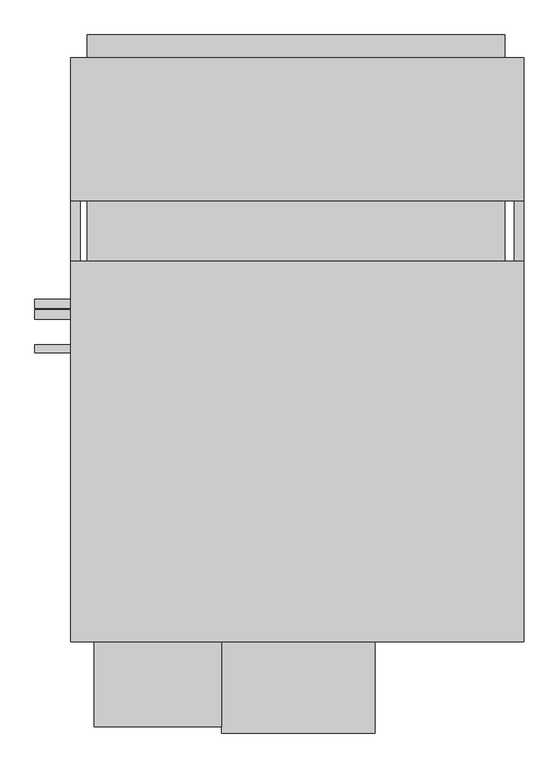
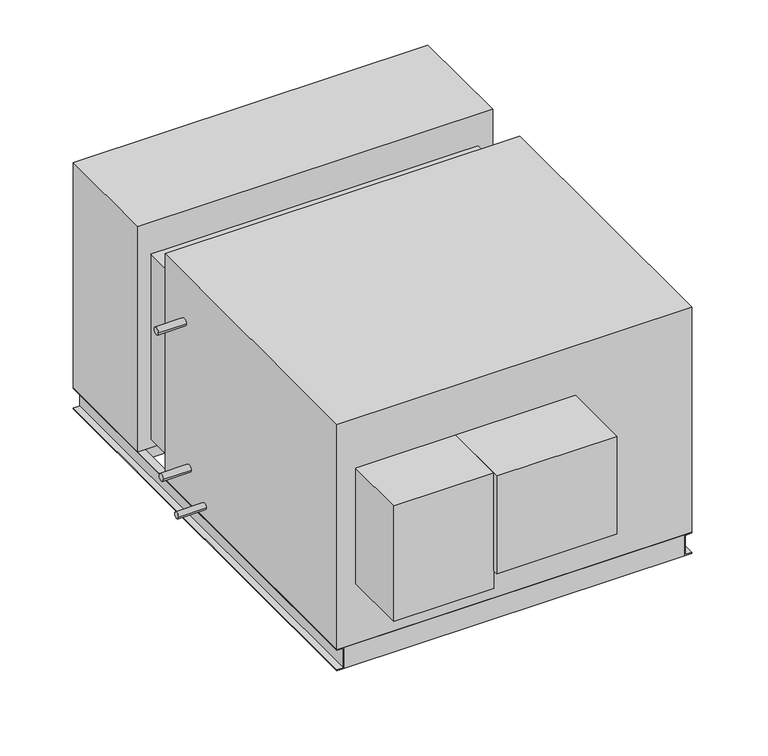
"""IFC4 building model written with IfcOpenShell, lengths in millimetres: proxy geometry, Horizontal_Direct_Drive_Blower_Coil_Unit_-_42DHA_-_CARRIER_-_2-Pipe_Cool-EHeat_NFilterR_W-MixingBox_LH_2022 : Size 30 - 460v/60Hz/3Ph - 8 Row 30.0kW LH."""

import ifcopenshell
import ifcopenshell.guid

model = None  # the IFC model being written
_history = None  # IfcOwnerHistory: only IFC2X3 demands one
_inside = {}  # id of a spatial element -> (the spatial element, [elements in it])
_under = {}  # id of a project, library or spatial element -> (it, [spatial elements below it])
_declared = {}  # id of a project -> (the project, [libraries it declares])
_typed = {}  # id of a type object -> (the type object, [elements of that type])
_made_of = {}  # id of a material, layer set ... -> (it, [elements and type objects made of it])


def new_model(schema):
    """Start an empty IFC model of exactly this schema.

    Asked for "IFC4X3", IfcOpenShell would pick the latest addendum, in which some entities
    have other attributes; the version numbers below select the first issue.
    IFC2X3 requires an IfcOwnerHistory on every rooted entity: one is made here for all.
    """
    global model, _history
    if schema == "IFC4X3":
        model = ifcopenshell.file(schema_version=(4, 3, 0, 0))
    else:
        model = ifcopenshell.file(schema=schema)
    _inside.clear()
    _under.clear()
    _declared.clear()
    _typed.clear()
    _made_of.clear()
    _history = None
    if model.schema == "IFC2X3":
        org = make("IfcOrganization", Name="unknown")
        user = make(
            "IfcPersonAndOrganization",
            ThePerson=make("IfcPerson", FamilyName="unknown"),
            TheOrganization=org,
        )
        app = make(
            "IfcApplication",
            ApplicationDeveloper=org,
            Version="unknown",
            ApplicationFullName="unknown",
            ApplicationIdentifier="unknown",
        )
        _history = make(
            "IfcOwnerHistory",
            OwningUser=user,
            OwningApplication=app,
            ChangeAction="ADDED",
            CreationDate=0,
        )
    return model


def make(cls, **values):
    """One entity of the class cls with the attributes given. An attribute that is None is left unset."""
    return model.create_entity(
        cls, **{name: value for name, value in values.items() if value is not None}
    )


def rooted(cls, **values):
    """An entity with a GlobalId (a new one), such as an element, a storey or a relation."""
    return make(cls, GlobalId=ifcopenshell.guid.new(), OwnerHistory=_history, **values)


def si_unit(unit_type, name, prefix=None):
    """IfcSIUnit, for example si_unit("LENGTHUNIT", "METRE", prefix="MILLI")."""
    return make("IfcSIUnit", UnitType=unit_type, Prefix=prefix, Name=name)


def assignment(units):
    """IfcUnitAssignment: the units of a project."""
    return None if units is None else make("IfcUnitAssignment", Units=units)


def point(xyz):
    """IfcCartesianPoint."""
    return None if xyz is None else make("IfcCartesianPoint", Coordinates=xyz)


def direction(xyz):
    """IfcDirection."""
    return None if xyz is None else make("IfcDirection", DirectionRatios=xyz)


def frame(location, z_axis=None, x_axis=None):
    """IfcAxis2Placement3D, a coordinate frame: its origin and axes. An axis left out is left unset."""
    return make(
        "IfcAxis2Placement3D",
        Location=point(location),
        Axis=direction(z_axis),
        RefDirection=direction(x_axis),
    )


def frame_2d(location, x_axis=None):
    """IfcAxis2Placement2D, a coordinate frame in the plane: its origin and x axis."""
    return make(
        "IfcAxis2Placement2D", Location=point(location), RefDirection=direction(x_axis)
    )


def origin():
    """The frame at (0, 0, 0) with its axes left unset."""
    return frame((0.0, 0.0, 0.0))


def place(relative_to, where):
    """IfcLocalPlacement: puts the frame where relative to a parent placement (None: the world)."""
    return make(
        "IfcLocalPlacement", PlacementRelTo=relative_to, RelativePlacement=where
    )


def context(
    kind, dimensions, precision=None, world=None, true_north=None, identifier=None
):
    """IfcGeometricRepresentationContext, for example the 3D "Model" context."""
    return make(
        "IfcGeometricRepresentationContext",
        ContextIdentifier=identifier,
        ContextType=kind,
        CoordinateSpaceDimension=dimensions,
        Precision=precision,
        WorldCoordinateSystem=world,
        TrueNorth=true_north,
    )


def project(units=None, contexts=None):
    """IfcProject with its units and contexts."""
    return rooted(
        "IfcProject",
        Name="project",
        RepresentationContexts=contexts,
        UnitsInContext=assignment(units),
    )


def spatial(cls, under=None, at=None, **own):
    """A site, building, storey or space (cls), placed at a placement, below another one or the project."""
    s = rooted(cls, ObjectPlacement=at, **own)
    if under is not None:
        _under.setdefault(under.id(), (under, []))[1].append(s)
    return s


def polyline(points):
    """IfcPolyline through the points."""
    return make("IfcPolyline", Points=[point(p) for p in points])


def circle_curve(where, radius):
    """IfcCircle in the frame where."""
    return make("IfcCircle", Position=where, Radius=radius)


def trimmed(basis, trim1, trim2, sense, master):
    """IfcTrimmedCurve: the piece of a basis curve between two trims."""
    return make(
        "IfcTrimmedCurve",
        BasisCurve=basis,
        Trim1=trim1,
        Trim2=trim2,
        SenseAgreement=sense,
        MasterRepresentation=master,
    )


def segment(curve, same_sense, transition):
    """IfcCompositeCurveSegment."""
    return make(
        "IfcCompositeCurveSegment",
        Transition=transition,
        SameSense=same_sense,
        ParentCurve=curve,
    )


def composite_curve(segments, self_intersect=None):
    """IfcCompositeCurve: segments joined end to end."""
    return make("IfcCompositeCurve", Segments=segments, SelfIntersect=self_intersect)


def outline(outer, holes=None, kind="AREA"):
    """IfcArbitraryClosedProfileDef: a profile drawn as a closed curve; with holes, ...WithVoids."""
    if holes is None:
        return make("IfcArbitraryClosedProfileDef", ProfileType=kind, OuterCurve=outer)
    return make(
        "IfcArbitraryProfileDefWithVoids",
        ProfileType=kind,
        OuterCurve=outer,
        InnerCurves=holes,
    )


def extrude(swept, where, along, depth):
    """IfcExtrudedAreaSolid: the profile swept, set in the frame where, extruded along a direction by depth."""
    return make(
        "IfcExtrudedAreaSolid",
        SweptArea=swept,
        Position=where,
        ExtrudedDirection=direction(along),
        Depth=depth,
    )


def shape(context_of_items, identifier, shape_type, items):
    """IfcShapeRepresentation: the items that make up one representation, for example the "Body"."""
    return make(
        "IfcShapeRepresentation",
        ContextOfItems=context_of_items,
        RepresentationIdentifier=identifier,
        RepresentationType=shape_type,
        Items=items,
    )


def source(mapping_origin, context_of_items, identifier, shape_type, items):
    """IfcRepresentationMap: a shape defined once, which mapped items show again and again."""
    return make(
        "IfcRepresentationMap",
        MappingOrigin=mapping_origin,
        MappedRepresentation=shape(context_of_items, identifier, shape_type, items),
    )


def transform(
    local_origin,
    x_axis=None,
    y_axis=None,
    z_axis=None,
    scale=None,
    scale2=None,
    scale3=None,
    uniform=True,
):
    """IfcCartesianTransformationOperator3D, or its non-uniform kind. x_axis, y_axis, z_axis: its Axis1, 2, 3."""
    if uniform:
        return make(
            "IfcCartesianTransformationOperator3D",
            Axis1=direction(x_axis),
            Axis2=direction(y_axis),
            LocalOrigin=point(local_origin),
            Scale=scale,
            Axis3=direction(z_axis),
        )
    return make(
        "IfcCartesianTransformationOperator3DnonUniform",
        Axis1=direction(x_axis),
        Axis2=direction(y_axis),
        LocalOrigin=point(local_origin),
        Scale=scale,
        Axis3=direction(z_axis),
        Scale2=scale2,
        Scale3=scale3,
    )


def mapped(mapping_source, mapping_target):
    """IfcMappedItem: shows the shape of a source again, moved by a transform."""
    return make(
        "IfcMappedItem", MappingSource=mapping_source, MappingTarget=mapping_target
    )


def made_of(thing, what):
    """Note that an element or type object is made of a material, layer set ...; save() writes the relation."""
    if what is not None:
        _made_of.setdefault(what.id(), (what, []))[1].append(thing)
    return thing


def element(
    cls,
    number,
    at=None,
    inside=None,
    cuts=None,
    type_object=None,
    material=None,
    context=None,
    identifier="Body",
    shape_type=None,
    held_by="IfcProductDefinitionShape",
    body=None,
    shapes=None,
    **own,
):
    """One element of the class cls, such as IfcWall. Its Tag is "e" and its number.

    at: its placement. inside: the storey or other place that contains it. cuts: it is an
    opening in that element (IfcRelVoidsElement). A single representation is given by context,
    identifier, shape_type and body (its items); several are given by shapes. held_by: the class
    of the entity that holds the representations. save() writes the other relations.
    """
    e = rooted(cls, Tag="e%d" % number, ObjectPlacement=at, **own)
    if body is not None:
        shapes = [shape(context, identifier, shape_type, body)]
    if shapes is not None:
        e.Representation = make(held_by, Representations=shapes)
    if inside is not None:
        _inside.setdefault(inside.id(), (inside, []))[1].append(e)
    if cuts is not None:
        rooted(
            "IfcRelVoidsElement", RelatingBuildingElement=cuts, RelatedOpeningElement=e
        )
    if type_object is not None:
        _typed.setdefault(type_object.id(), (type_object, []))[1].append(e)
    return made_of(e, material)


def aggregate(whole, parts):
    """IfcRelAggregates: a whole, such as a stair, and the parts it consists of."""
    return rooted("IfcRelAggregates", RelatingObject=whole, RelatedObjects=parts)


def save(model, path):
    """Write the relations noted so far, then the file.

    IfcRelAggregates (storeys below a building ...), IfcRelContainedInSpatialStructure (elements
    in a storey), IfcRelDefinesByType, IfcRelAssociatesMaterial and IfcRelDeclares: one each for
    every whole, place, type object, material and project.
    """
    for whole, parts in _under.values():
        aggregate(whole, parts)
    for where, things in _inside.values():
        rooted(
            "IfcRelContainedInSpatialStructure",
            RelatedElements=things,
            RelatingStructure=where,
        )
    for kind, things in _typed.values():
        rooted("IfcRelDefinesByType", RelatedObjects=things, RelatingType=kind)
    for what, things in _made_of.values():
        rooted("IfcRelAssociatesMaterial", RelatedObjects=things, RelatingMaterial=what)
    for by, libraries in _declared.values():
        rooted("IfcRelDeclares", RelatingContext=by, RelatedDefinitions=libraries)
    model.write(path)


def mechanical_equipment_e2a74134(model_context):
    return source(origin(), model_context, "Body", "SweptSolid", [
        extrude(outline(polyline([(101.6, 937.895), (101.6, 683.895), (-1022.35, 683.895), (-1022.35, 937.895), (101.6, 937.895)])), frame((0.0, 0.0, -880.11), z_axis=(0.0, 0.0, 1.0), x_axis=(1.0, 0.0, 0.0)), (0.0, 0.0, 1.0), 60.96),
        extrude(outline(polyline([(-1022.35, 1100.455), (101.6, 1100.455), (101.6, 1039.495), (-1022.35, 1039.495), (-1022.35, 1100.455)])), frame((0.0, 0.0, -330.2), z_axis=(0.0, 0.0, 1.0), x_axis=(1.0, 0.0, 0.0)), (0.0, 0.0, 1.0), 254.0),
        extrude(outline(polyline([(152.4, 1039.495), (152.4, 654.05), (-1066.8, 654.05), (-1066.8, 1039.495), (152.4, 1039.495)])), frame((0.0, 0.0, -819.15), z_axis=(0.0, 0.0, 1.0), x_axis=(1.0, 0.0, 0.0)), (0.0, 0.0, 1.0), 819.15),
        extrude(outline(polyline([(127.0, -504.825), (127.0, -530.225), (-1041.4, -530.225), (-1041.4, -504.825), (127.0, -504.825)])), frame((0.0, 0.0, -895.35), z_axis=(0.0, 0.0, 1.0), x_axis=(1.0, 0.0, 0.0)), (0.0, 0.0, 1.0), 76.2),
        extrude(outline(polyline([(127.0, 1039.495), (127.0, 1014.095), (-1041.4, 1014.095), (-1041.4, 1039.495), (127.0, 1039.495)])), frame((0.0, 0.0, -895.35), z_axis=(0.0, 0.0, 1.0), x_axis=(1.0, 0.0, 0.0)), (0.0, 0.0, 1.0), 76.2),
        extrude(outline(polyline([(-819.15, -1041.4), (-819.15, -1066.8), (-822.325, -1066.8), (-822.325, -1044.575), (-892.175, -1044.575), (-892.175, -1066.8), (-895.35, -1066.8), (-895.35, -1041.4), (-819.15, -1041.4)])), frame((0.0, -530.225, 0.0), z_axis=(0.0, 1.0, 0.0), x_axis=(0.0, 0.0, 1.0)), (0.0, 0.0, 1.0), 1569.72),
        extrude(outline(polyline([(-819.15, 127.0), (-895.35, 127.0), (-895.35, 152.4), (-892.175, 152.4), (-892.175, 130.175), (-822.325, 130.175), (-822.325, 152.4), (-819.15, 152.4), (-819.15, 127.0)])), frame((0.0, -530.225, 0.0), z_axis=(0.0, 1.0, 0.0), x_axis=(0.0, 0.0, 1.0)), (0.0, 0.0, 1.0), 1569.72),
        extrude(outline(composite_curve([segment(trimmed(circle_curve(frame_2d((377.825, -177.8)), 12.7), [point((365.125, -177.8))], [point((390.525, -177.8))], False, "CARTESIAN"), True, "CONTINUOUS"), segment(trimmed(circle_curve(frame_2d((377.825, -177.8)), 12.7), [point((390.525, -177.8))], [point((365.125, -177.8))], False, "CARTESIAN"), True, "CONTINUOUS")], self_intersect=False)), frame((-1163.1025559, 0.0, 0.0), z_axis=(1.0, 0.0, 0.0), x_axis=(0.0, 1.0, 0.0)), (0.0, 0.0, 1.0), 96.3025559),
        extrude(outline(composite_curve([segment(trimmed(circle_curve(frame_2d((348.9715397, -692.15)), 12.7), [point((336.2715397, -692.15))], [point((361.6715397, -692.15))], False, "CARTESIAN"), True, "CONTINUOUS"), segment(trimmed(circle_curve(frame_2d((348.9715397, -692.15)), 12.7), [point((361.6715397, -692.15))], [point((336.2715397, -692.15))], False, "CARTESIAN"), True, "CONTINUOUS")], self_intersect=False)), frame((-1163.1025559, 0.0, 0.0), z_axis=(1.0, 0.0, 0.0), x_axis=(0.0, 1.0, 0.0)), (0.0, 0.0, 1.0), 96.3025559),
        extrude(outline(composite_curve([segment(trimmed(circle_curve(frame_2d((257.175, -774.7)), 11.1125), [point((246.0625, -774.7))], [point((268.2875, -774.7))], False, "CARTESIAN"), True, "CONTINUOUS"), segment(trimmed(circle_curve(frame_2d((257.175, -774.7)), 11.1125), [point((268.2875, -774.7))], [point((246.0625, -774.7))], False, "CARTESIAN"), True, "CONTINUOUS")], self_intersect=False)), frame((-1163.1025559, 0.0, 0.0), z_axis=(1.0, 0.0, 0.0), x_axis=(0.0, 1.0, 0.0)), (0.0, 0.0, 1.0), 96.3025559),
        extrude(outline(polyline([(152.4, 492.125), (152.4, -530.225), (-1066.8, -530.225), (-1066.8, 492.125), (152.4, 492.125)])), frame((0.0, 0.0, -819.15), z_axis=(0.0, 0.0, 1.0), x_axis=(1.0, 0.0, 0.0)), (0.0, 0.0, 1.0), 819.15),
        extrude(outline(polyline([(-660.4, -758.825), (-1003.3, -758.825), (-1003.3, -530.225), (-660.4, -530.225), (-660.4, -758.825)])), frame((0.0, 0.0, -600.075), z_axis=(0.0, 0.0, 1.0), x_axis=(1.0, 0.0, 0.0)), (0.0, 0.0, 1.0), 419.1),
        extrude(outline(polyline([(-1022.35, 654.05), (101.6, 654.05), (101.6, 492.125), (-1022.35, 492.125), (-1022.35, 654.05)])), frame((0.0, 0.0, -787.4), z_axis=(0.0, 0.0, 1.0), x_axis=(1.0, 0.0, 0.0)), (0.0, 0.0, 1.0), 673.1),
        extrude(outline(polyline([(-247.65, -776.2875), (-660.4, -776.2875), (-660.4, -530.225), (-247.65, -530.225), (-247.65, -776.2875)])), frame((0.0, 0.0, -536.575), z_axis=(0.0, 0.0, 1.0), x_axis=(1.0, 0.0, 0.0)), (0.0, 0.0, 1.0), 355.6),
    ])


if __name__ == "__main__":
    model = new_model("IFC4")
    model_context = context("Model", 3, world=origin())
    ifc_project = project(units=[si_unit("LENGTHUNIT", "METRE", prefix="MILLI")], contexts=[model_context])
    site = spatial("IfcSite", under=ifc_project)
    building = spatial("IfcBuilding", under=site)
    placement = place(None, origin())
    mechanical_equipment_shape = mechanical_equipment_e2a74134(model_context)
    element("IfcBuildingElementProxy", 1, Name="Horizontal_Direct_Drive_Blower_Coil_Unit_-_42DHA_-_CARRIER_-_2-Pipe_Cool-EHeat_NFilterR_W-MixingBox_LH_2022 : Size 30 - 460v/60Hz/3Ph - 8 Row 30.0kW LH", ObjectType="Horizontal_Direct_Drive_Blower_Coil_Unit_-_42DHA_-_CARRIER_-_2-Pipe_Cool-EHeat_NFilterR_W-MixingBox_LH_2022 : Size 30 - 460v/60Hz/3Ph - 8 Row 30.0kW LH", at=placement, inside=building, context=model_context, shape_type="MappedRepresentation", body=[
        mapped(mechanical_equipment_shape, transform((0.0, 0.0, 0.0), x_axis=(1.0, 0.0, 0.0), y_axis=(0.0, 1.0, 0.0), z_axis=(0.0, 0.0, 1.0))),
    ])
    save(model, "model.ifc")
